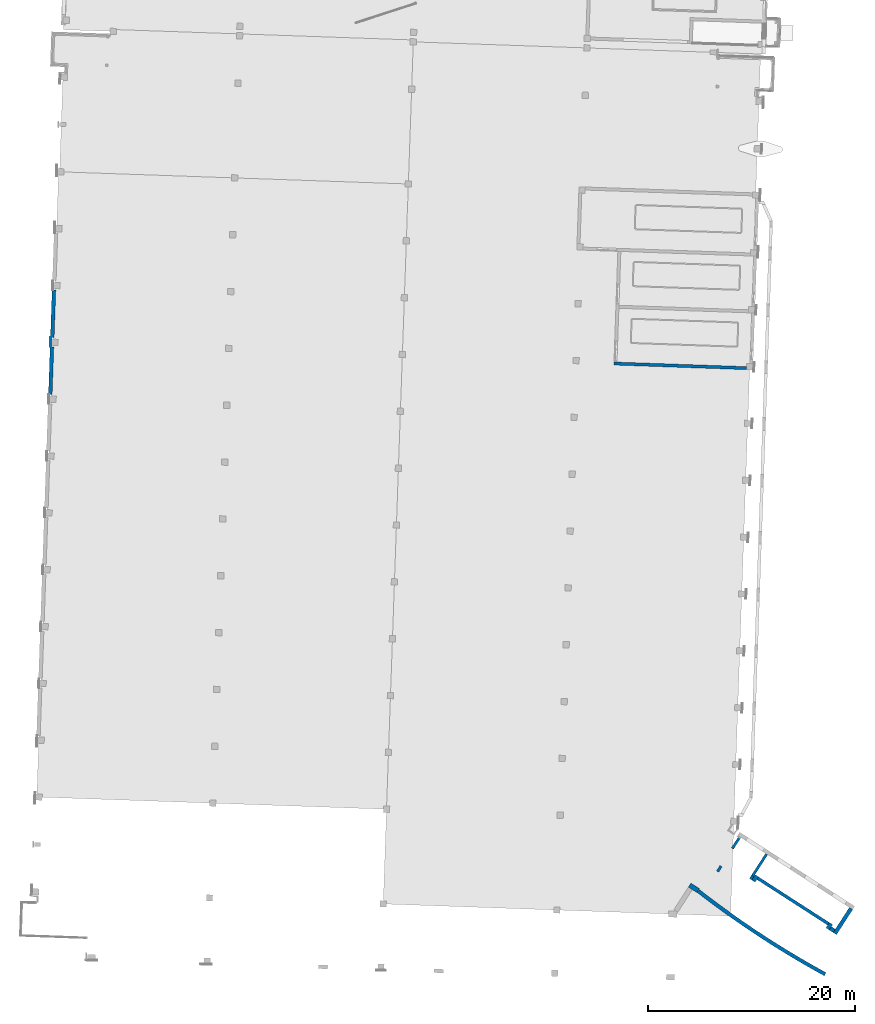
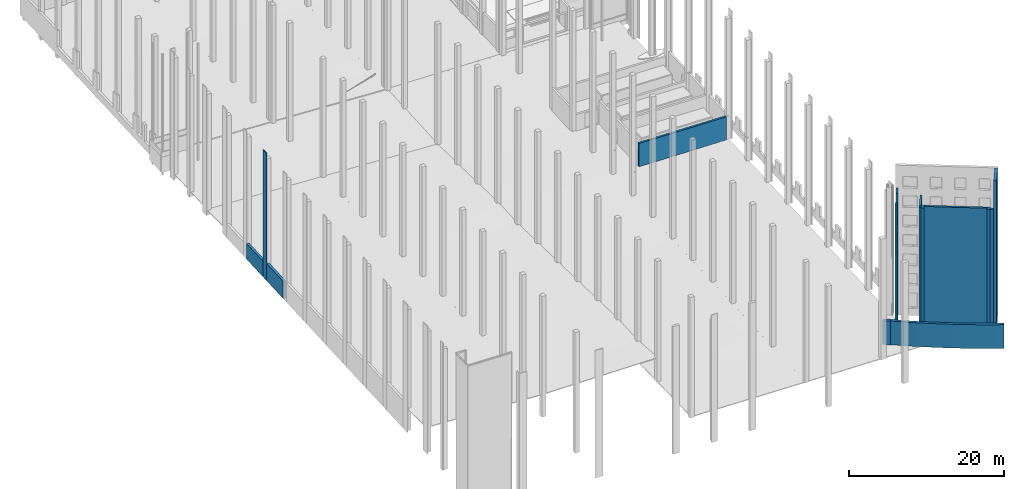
# One storey, part 26 of 44: 15 walls.
"""IFC2X3 building model written with IfcOpenShell, lengths in feet."""

from ifc_helpers import new_model, entity, si_unit, converted_unit, derived_unit, direction, frame, frame_2d, origin, place, context, subcontext, project, spatial, polyline, circle_curve, parameter, trimmed, segment, composite_curve, rectangle, outline, extrude, material, layer, layer_set, layer_usage, type_object, element, save


model = new_model("IFC2X3")

# Units and contexts
model_context = context("Model", 3, precision=0.0001, world=origin(), true_north=direction((0.999390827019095, 0.0348994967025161)))
body_context = subcontext(model_context, "Body", "Model", "MODEL_VIEW")
ifc_project = project(units=[converted_unit("LENGTHUNIT", "FOOT", entity("IfcRatioMeasure", 0.3048), si_unit("LENGTHUNIT", "METRE"), dimensions=[1, 0, 0, 0, 0, 0, 0]), converted_unit("AREAUNIT", "SQUARE FOOT", entity("IfcRatioMeasure", 0.09290304), si_unit("AREAUNIT", "SQUARE_METRE"), dimensions=[2, 0, 0, 0, 0, 0, 0]), converted_unit("VOLUMEUNIT", "CUBIC FOOT", entity("IfcRatioMeasure", 0.028316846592), si_unit("VOLUMEUNIT", "CUBIC_METRE"), dimensions=[3, 0, 0, 0, 0, 0, 0]), converted_unit("PLANEANGLEUNIT", "DEGREE", entity("IfcRatioMeasure", 0.0174532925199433), si_unit("PLANEANGLEUNIT", "RADIAN"), dimensions=[0, 0, 0, 0, 0, 0, 0]), si_unit("MASSUNIT", "GRAM", prefix="KILO"), si_unit("TIMEUNIT", "SECOND"), si_unit("FREQUENCYUNIT", "HERTZ"), si_unit("THERMODYNAMICTEMPERATUREUNIT", "DEGREE_CELSIUS"), derived_unit("THERMALTRANSMITTANCEUNIT", [(si_unit("MASSUNIT", "GRAM", prefix="KILO"), 1), (si_unit("THERMODYNAMICTEMPERATUREUNIT", "KELVIN"), -1), (si_unit("TIMEUNIT", "SECOND"), -3)]), derived_unit("VOLUMETRICFLOWRATEUNIT", [(si_unit("LENGTHUNIT", "METRE"), 3), (si_unit("TIMEUNIT", "SECOND"), -1)]), si_unit("ELECTRICCURRENTUNIT", "AMPERE"), si_unit("ELECTRICVOLTAGEUNIT", "VOLT"), si_unit("POWERUNIT", "WATT"), si_unit("FORCEUNIT", "NEWTON"), si_unit("ILLUMINANCEUNIT", "LUX"), si_unit("LUMINOUSFLUXUNIT", "LUMEN"), si_unit("LUMINOUSINTENSITYUNIT", "CANDELA"), derived_unit("USERDEFINED", [(si_unit("MASSUNIT", "GRAM", prefix="KILO"), -1), (si_unit("LENGTHUNIT", "METRE"), -2), (si_unit("TIMEUNIT", "SECOND"), 3), (si_unit("LUMINOUSFLUXUNIT", "LUMEN"), 1)]), derived_unit("LINEARVELOCITYUNIT", [(si_unit("LENGTHUNIT", "METRE"), 1), (si_unit("TIMEUNIT", "SECOND"), -1)]), si_unit("PRESSUREUNIT", "PASCAL"), derived_unit("USERDEFINED", [(si_unit("LENGTHUNIT", "METRE"), -2), (si_unit("MASSUNIT", "GRAM", prefix="KILO"), 1), (si_unit("TIMEUNIT", "SECOND"), -2)])], contexts=[model_context])

# Site, building, storey
site_placement = place(None, frame((892.518771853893, 322.38689265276, 0.00393700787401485), z_axis=(0.0, 0.0, 1.0), x_axis=(0.0348994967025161, 0.999390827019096, 0.0)))
site = spatial("IfcSite", under=ifc_project, at=site_placement, Name="Default", CompositionType="ELEMENT")
building_placement = place(site_placement, origin())
building = spatial("IfcBuilding", under=site, at=building_placement, CompositionType="ELEMENT")
storey_placement = place(building_placement, frame((0.0, 0.0, 544.75)))
storey = spatial("IfcBuildingStorey", under=building, at=storey_placement, Name="Exist Garage - Ground Level", CompositionType="ELEMENT", Elevation=544.75)

# Walls
ifc_material_1 = material(Name="Masonry - Brick")
ifc_layer_1 = layer(ifc_material_1, 0.302083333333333)
ifc_layer_set_1 = layer_set([ifc_layer_1], Name="Basic Wall:(Existing) Exterior - Brick Veneer 3 5/8\"")
ifc_layer_usage_1 = layer_usage(ifc_layer_set_1, "AXIS2", "NEGATIVE", 0.151041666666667)
wall_type_1 = type_object("IfcWallType", Name="Basic Wall:(Existing) Exterior - Brick Veneer 3 5/8\"", PredefinedType="STANDARD", material=ifc_layer_set_1)
wall_1_placement = place(storey_placement, frame((2.4272542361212, 458.112911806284, 0.0)))
element("IfcWallStandardCase", 1, at=wall_1_placement, inside=storey, type_object=wall_type_1, material=ifc_layer_usage_1, Name="Basic Wall:(Existing) Exterior - Brick Veneer 3 5/8\"", ObjectType="Basic Wall:(Existing) Exterior - Brick Veneer 3 5/8\"", context=body_context, shape_type="SweptSolid", body=[
    extrude(rectangle(XDim=3.00000000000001, YDim=0.302083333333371, at=frame_2d((1.5, 0.0), x_axis=(-1.0, 0.0))), origin(), (0.0, 0.0, 1.0), 65.8125),
])
ifc_layer_2 = layer(ifc_material_1, 0.302083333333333)
ifc_material_2 = material(Name="Misc. Air Layers - Air Space")
ifc_layer_3 = layer(ifc_material_2, 0.197916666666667)
ifc_material_3 = material(Name="Concrete - Cast-in-Place Concrete_hatch surface")
ifc_layer_4 = layer(ifc_material_3, 0.666666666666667)
ifc_layer_set_2 = layer_set([ifc_layer_2, ifc_layer_3, ifc_layer_4], Name="Basic Wall:(existing)Exterior - Brick on Conc - 1'-2\"(2\" air space)")
ifc_layer_usage_2 = layer_usage(ifc_layer_set_2, "AXIS2", "POSITIVE", -0.583333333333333)
wall_type_2 = type_object("IfcWallType", Name="Basic Wall:(existing)Exterior - Brick on Conc - 1'-2\"(2\" air space)", PredefinedType="STANDARD", material=ifc_layer_set_2)
wall_2_placement = place(storey_placement, frame((2.42725423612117, 457.680620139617, 0.0), z_axis=(0.0, 0.0, 1.0), x_axis=(-1.0, 0.0, 0.0)))
element("IfcWallStandardCase", 2, at=wall_2_placement, inside=storey, type_object=wall_type_2, material=ifc_layer_usage_2, Name="Basic Wall:(existing)Exterior - Brick on Conc - 1'-2\"(2\" air space)", ObjectType="Basic Wall:(existing)Exterior - Brick on Conc - 1'-2\"(2\" air space)", context=body_context, shape_type="SweptSolid", body=[
    extrude(rectangle(XDim=15.0, YDim=1.16666666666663, at=frame_2d((7.49999999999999, -1.43773881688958e-14), x_axis=(-1.0, 0.0))), origin(), (0.0, 0.0, 1.0), 8.919921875),
])
ifc_layer_usage_3 = layer_usage(ifc_layer_set_2, "AXIS2", "POSITIVE", -0.583333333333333)
wall_3_placement = place(storey_placement, frame((20.4272542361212, 457.680620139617, 0.0), z_axis=(0.0, 0.0, 1.0), x_axis=(-1.0, 0.0, 0.0)))
element("IfcWallStandardCase", 3, at=wall_3_placement, inside=storey, type_object=wall_type_2, material=ifc_layer_usage_3, Name="Basic Wall:(existing)Exterior - Brick on Conc - 1'-2\"(2\" air space)", ObjectType="Basic Wall:(existing)Exterior - Brick on Conc - 1'-2\"(2\" air space)", context=body_context, shape_type="SweptSolid", body=[
    extrude(rectangle(XDim=15.0, YDim=1.16666666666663, at=frame_2d((7.49999999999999, -1.43773881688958e-14), x_axis=(-1.0, 0.0))), origin(), (0.0, 0.0, 1.0), 8.0),
])
ifc_layer_5 = layer(ifc_material_1, 0.302083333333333)
ifc_material_4 = material(Name="Insulation / Thermal Barriers - Rigid insulation")
ifc_layer_6 = layer(ifc_material_4, 0.0625)
ifc_material_5 = material(Name="Masonry - Concrete Masonry Units")
ifc_layer_7 = layer(ifc_material_5, 0.635416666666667)
ifc_layer_set_3 = layer_set([ifc_layer_5, ifc_layer_6, ifc_layer_7], Name="Basic Wall:(existing) Exterior - Brick on CMU - 1'-0\"")
ifc_layer_usage_4 = layer_usage(ifc_layer_set_3, "AXIS2", "NEGATIVE", 0.5)
wall_type_3 = type_object("IfcWallType", Name="Basic Wall:(existing) Exterior - Brick on CMU - 1'-0\"", PredefinedType="STANDARD", material=ifc_layer_set_3)
wall_4_placement = place(storey_placement, frame((-171.447234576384, 205.694758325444, 0.0), z_axis=(0.0, 0.0, 1.0), x_axis=(0.512021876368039, 0.858972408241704, 0.0)))
element("IfcWallStandardCase", 4, at=wall_4_placement, inside=storey, type_object=wall_type_3, material=ifc_layer_usage_4, Name="Basic Wall:(existing) Exterior - Brick on CMU - 1'-0\"", ObjectType="Basic Wall:(existing) Exterior - Brick on CMU - 1'-0\"", context=body_context, shape_type="SweptSolid", body=[
    extrude(rectangle(XDim=26.6666666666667, YDim=1.00000000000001, at=frame_2d((13.3333333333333, -3.1641356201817e-15), x_axis=(-1.0, 0.0))), origin(), (0.0, 0.0, 1.0), 62.25),
])
ifc_layer_8 = layer(ifc_material_1, 0.302083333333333)
ifc_layer_9 = layer(ifc_material_2, 0.114583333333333)
ifc_layer_10 = layer(ifc_material_3, 0.833333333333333)
ifc_layer_set_4 = layer_set([ifc_layer_8, ifc_layer_9, ifc_layer_10], Name="Basic Wall:(existing)Exterior - Brick on Conc - 1'-3\"")
ifc_layer_usage_5 = layer_usage(ifc_layer_set_4, "AXIS2", "NEGATIVE", 0.625)
wall_type_4 = type_object("IfcWallType", Name="Basic Wall:(existing)Exterior - Brick on Conc - 1'-3\"", PredefinedType="STANDARD", material=ifc_layer_set_4)
wall_5_placement = place(storey_placement, frame((-166.367109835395, 198.75564137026, 0.0), z_axis=(0.0, 0.0, 1.0), x_axis=(-0.858972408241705, 0.512021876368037, 0.0)))
element("IfcWallStandardCase", 5, at=wall_5_placement, inside=storey, type_object=wall_type_4, material=ifc_layer_usage_5, Name="Basic Wall:(existing)Exterior - Brick on Conc - 1'-3\"", ObjectType="Basic Wall:(existing)Exterior - Brick on Conc - 1'-3\"", context=body_context, shape_type="SweptSolid", body=[
    extrude(rectangle(XDim=9.41666666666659, YDim=1.25, at=frame_2d((4.70833333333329, 2.83106871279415e-15), x_axis=(-1.0, 0.0))), origin(), (0.0, 0.0, 1.0), 77.25),
])
ifc_layer_usage_6 = layer_usage(ifc_layer_set_4, "AXIS2", "NEGATIVE", 0.625)
wall_6_placement = place(storey_placement, frame((-173.598895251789, 203.79402478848, 0.0), z_axis=(0.0, 0.0, 1.0), x_axis=(0.512021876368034, 0.858972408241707, 0.0)))
element("IfcWallStandardCase", 6, at=wall_6_placement, inside=storey, type_object=wall_type_4, material=ifc_layer_usage_6, Name="Basic Wall:(existing)Exterior - Brick on Conc - 1'-3\"", ObjectType="Basic Wall:(existing)Exterior - Brick on Conc - 1'-3\"", context=body_context, shape_type="SweptSolid", body=[
    extrude(rectangle(XDim=1.48437500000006, YDim=1.25, at=frame_2d((0.742187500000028, 1.60982338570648e-15), x_axis=(-1.0, 0.0))), origin(), (0.0, 0.0, 1.0), 62.25),
])
ifc_layer_usage_7 = layer_usage(ifc_layer_set_4, "AXIS2", "NEGATIVE", 0.625)
wall_7_placement = place(storey_placement, frame((-173.055706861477, 205.925933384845, 0.0), z_axis=(0.0, 0.0, 1.0), x_axis=(0.858972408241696, -0.512021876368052, 0.0)))
element("IfcWallStandardCase", 7, at=wall_7_placement, inside=storey, type_object=wall_type_4, material=ifc_layer_usage_7, Name="Basic Wall:(existing)Exterior - Brick on Conc - 1'-3\"", ObjectType="Basic Wall:(existing)Exterior - Brick on Conc - 1'-3\"", context=body_context, shape_type="SweptSolid", body=[
    extrude(rectangle(XDim=1.99999999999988, YDim=1.25, at=frame_2d((0.999999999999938, -4.77395900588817e-15), x_axis=(-1.0, 0.0))), origin(), (0.0, 0.0, 1.0), 62.25),
])
ifc_layer_usage_8 = layer_usage(ifc_layer_set_4, "AXIS2", "POSITIVE", -0.625)
wall_8_placement = place(storey_placement, frame((-157.435537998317, 230.909815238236, 0.0), z_axis=(0.0, 0.0, 1.0), x_axis=(-0.512021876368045, -0.858972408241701, 0.0)))
element("IfcWallStandardCase", 8, at=wall_8_placement, inside=storey, type_object=wall_type_4, material=ifc_layer_usage_8, Name="Basic Wall:(existing)Exterior - Brick on Conc - 1'-3\"", ObjectType="Basic Wall:(existing)Exterior - Brick on Conc - 1'-3\"", context=body_context, shape_type="SweptSolid", body=[
    extrude(rectangle(XDim=0.91666666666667, YDim=1.25, at=frame_2d((0.458333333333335, -5.32907051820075e-15), x_axis=(-1.0, 0.0))), origin(), (0.0, 0.0, 1.0), 62.25),
])
ifc_layer_usage_9 = layer_usage(ifc_layer_set_4, "AXIS2", "POSITIVE", -0.625)
wall_9_placement = place(storey_placement, frame((-158.761762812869, 229.905579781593, 0.0), z_axis=(0.0, 0.0, 1.0), x_axis=(0.858972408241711, -0.512021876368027, 0.0)))
element("IfcWallStandardCase", 9, at=wall_9_placement, inside=storey, type_object=wall_type_4, material=ifc_layer_usage_9, Name="Basic Wall:(existing)Exterior - Brick on Conc - 1'-3\"", ObjectType="Basic Wall:(existing)Exterior - Brick on Conc - 1'-3\"", context=body_context, shape_type="SweptSolid", body=[
    extrude(rectangle(XDim=1.99999999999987, YDim=1.25, at=frame_2d((0.999999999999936, -2.22044604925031e-15), x_axis=(-1.0, 0.0))), origin(), (0.0, 0.0, 1.0), 62.25),
])
ifc_layer_11 = layer(ifc_material_1, 0.302083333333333)
ifc_layer_12 = layer(ifc_material_2, 0.03125)
ifc_layer_13 = layer(ifc_material_3, 1.16666666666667)
ifc_layer_set_5 = layer_set([ifc_layer_11, ifc_layer_12, ifc_layer_13], Name="Basic Wall:(existing)Exterior - Brick on Conc - 1'-6\"")
ifc_layer_usage_10 = layer_usage(ifc_layer_set_5, "AXIS2", "POSITIVE", -0.75)
wall_type_5 = type_object("IfcWallType", Name="Basic Wall:(existing)Exterior - Brick on Conc - 1'-6\"", PredefinedType="STANDARD", material=ifc_layer_set_5)
wall_10_placement = place(storey_placement, frame((-162.381145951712, 247.270169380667, 0.0), z_axis=(0.0, 0.0, 1.0), x_axis=(0.512021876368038, 0.858972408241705, 0.0)))
element("IfcWallStandardCase", 10, at=wall_10_placement, inside=storey, type_object=wall_type_5, material=ifc_layer_usage_10, Name="Basic Wall:(existing)Exterior - Brick on Conc - 1'-6\"", ObjectType="Basic Wall:(existing)Exterior - Brick on Conc - 1'-6\"", context=body_context, shape_type="SweptSolid", body=[
    extrude(rectangle(XDim=3.22395833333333, YDim=1.49999999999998, at=frame_2d((1.61197916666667, 8.88178419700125e-16), x_axis=(-1.0, 0.0))), origin(), (0.0, 0.0, 1.0), 12.25),
])
ifc_material_6 = material(Name="Concrete - Cast-in-Place Concrete")
ifc_layer_14 = layer(ifc_material_6, 1.16666666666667)
ifc_layer_set_6 = layer_set([ifc_layer_14], Name="Basic Wall:(existing) Exterior - Below Grade Conc 14\"")
ifc_layer_usage_11 = layer_usage(ifc_layer_set_6, "AXIS2", "POSITIVE", -0.583333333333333)
wall_type_6 = type_object("IfcWallType", Name="Basic Wall:(existing) Exterior - Below Grade Conc 14\"", PredefinedType="STANDARD", material=ifc_layer_set_6)
wall_11_placement = place(storey_placement, frame((-187.408821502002, 206.208340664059, 0.0)))
element("IfcWallStandardCase", 11, at=wall_11_placement, inside=storey, type_object=wall_type_6, material=ifc_layer_usage_11, Name="Basic Wall:(existing) Exterior - Below Grade Conc 14\"", ObjectType="Basic Wall:(existing) Exterior - Below Grade Conc 14\"", context=body_context, shape_type="SweptSolid", body=[
    extrude(outline(composite_curve([segment(trimmed(circle_curve(frame_2d((267.37462374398, -134.253382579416), x_axis=(1.0, 0.0)), 299.770833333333), [parameter(144.129017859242)], [parameter(153.337988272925)], True, "PARAMETER"), True, "CONTINUOUS"), segment(polyline([(-0.521306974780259, 0.261757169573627), (0.521306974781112, -0.261757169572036)]), True, "CONTINUOUS"), segment(trimmed(circle_curve(frame_2d((267.37462374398, -134.253382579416), x_axis=(1.0, 0.0)), 298.604166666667), [parameter(144.129017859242)], [parameter(153.337988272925)], True, "PARAMETER"), False, "CONTINUOUS"), segment(polyline([(25.4041685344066, 40.7173211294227), (24.4587736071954, 41.4009434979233)]), True, "CONTINUOUS")], self_intersect=False)), origin(), (0.0, 0.0, 1.0), 12.25),
])
ifc_layer_15 = layer(ifc_material_3, 0.833333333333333)
ifc_layer_set_7 = layer_set([ifc_layer_15], Name="Basic Wall:(existing)Exterior - 10\" Conc")
ifc_layer_usage_12 = layer_usage(ifc_layer_set_7, "AXIS2", "POSITIVE", -0.416666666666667)
wall_type_7 = type_object("IfcWallType", Name="Basic Wall:(existing)Exterior - 10\" Conc", PredefinedType="STANDARD", material=ifc_layer_set_7)
wall_12_placement = place(storey_placement, frame((-145.263689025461, 234.889906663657, 0.0), z_axis=(0.0, 0.0, 1.0), x_axis=(-0.858972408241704, 0.512021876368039, 0.0)))
element("IfcWallStandardCase", 12, at=wall_12_placement, inside=storey, type_object=wall_type_7, material=ifc_layer_usage_12, Name="Basic Wall:(existing)Exterior - 10\" Conc", ObjectType="Basic Wall:(existing)Exterior - 10\" Conc", context=body_context, shape_type="SweptSolid", body=[
    extrude(rectangle(XDim=3.9590552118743, YDim=0.833333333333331, at=frame_2d((1.97952760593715, 2.24820162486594e-15), x_axis=(-1.0, 0.0))), origin(), (0.0, 0.0, 1.0), 65.8125),
])
ifc_layer_usage_13 = layer_usage(ifc_layer_set_7, "AXIS2", "POSITIVE", -0.416666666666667)
wall_13_placement = place(storey_placement, frame((-154.390890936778, 240.330508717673, 0.0), z_axis=(0.0, 0.0, 1.0), x_axis=(-0.858972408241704, 0.512021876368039, 0.0)))
element("IfcWallStandardCase", 13, at=wall_13_placement, inside=storey, type_object=wall_type_7, material=ifc_layer_usage_13, Name="Basic Wall:(existing)Exterior - 10\" Conc", ObjectType="Basic Wall:(existing)Exterior - 10\" Conc", context=body_context, shape_type="SweptSolid", body=[
    extrude(rectangle(XDim=2.00000000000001, YDim=0.833333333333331, at=frame_2d((1.00000000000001, 4.413136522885e-15), x_axis=(-1.0, 0.0))), origin(), (0.0, 0.0, 1.0), 65.8125),
])
ifc_layer_usage_14 = layer_usage(ifc_layer_set_7, "AXIS2", "NEGATIVE", 0.416666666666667)
wall_14_placement = place(storey_placement, frame((-157.112022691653, 230.231896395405, 0.0), z_axis=(0.0, 0.0, 1.0), x_axis=(0.858972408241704, -0.512021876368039, 0.0)))
element("IfcWallStandardCase", 14, at=wall_14_placement, inside=storey, type_object=wall_type_7, material=ifc_layer_usage_14, Name="Basic Wall:(existing)Exterior - 10\" Conc", ObjectType="Basic Wall:(existing)Exterior - 10\" Conc", context=body_context, shape_type="SweptSolid", body=[
    extrude(rectangle(XDim=8.16666666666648, YDim=0.833333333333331, at=frame_2d((4.08333333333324, -1.66533453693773e-16), x_axis=(-1.0, 0.0))), origin(), (0.0, 0.0, 1.0), 62.25),
])
ifc_layer_16 = layer(ifc_material_5, 0.96875)
ifc_layer_set_8 = layer_set([ifc_layer_16], Name="Basic Wall:Interior - (C12) 12\" cmu")
ifc_layer_usage_15 = layer_usage(ifc_layer_set_8, "AXIS2", "POSITIVE", -0.484375)
wall_type_8 = type_object("IfcWallType", Name="Basic Wall:Interior - (C12) 12\" cmu", PredefinedType="STANDARD", material=ifc_layer_set_8)
wall_15_placement = place(storey_placement, frame((3.41162923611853, 279.763953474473, -0.216916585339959), z_axis=(0.0, 0.0, 1.0), x_axis=(0.0, -1.0, 0.0)))
element("IfcWallStandardCase", 15, at=wall_15_placement, inside=storey, type_object=wall_type_8, material=ifc_layer_usage_15, Name="Basic Wall:Interior - (C12) 12\" cmu", ObjectType="Basic Wall:Interior - (C12) 12\" cmu", context=body_context, shape_type="SweptSolid", body=[
    extrude(rectangle(XDim=41.9999999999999, YDim=0.96875, at=frame_2d((20.9999999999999, 2.77555756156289e-17), x_axis=(-1.0, 0.0))), origin(), (0.0, 0.0, 1.0), 12.0502499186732),
])

save(model, "model.ifc")
